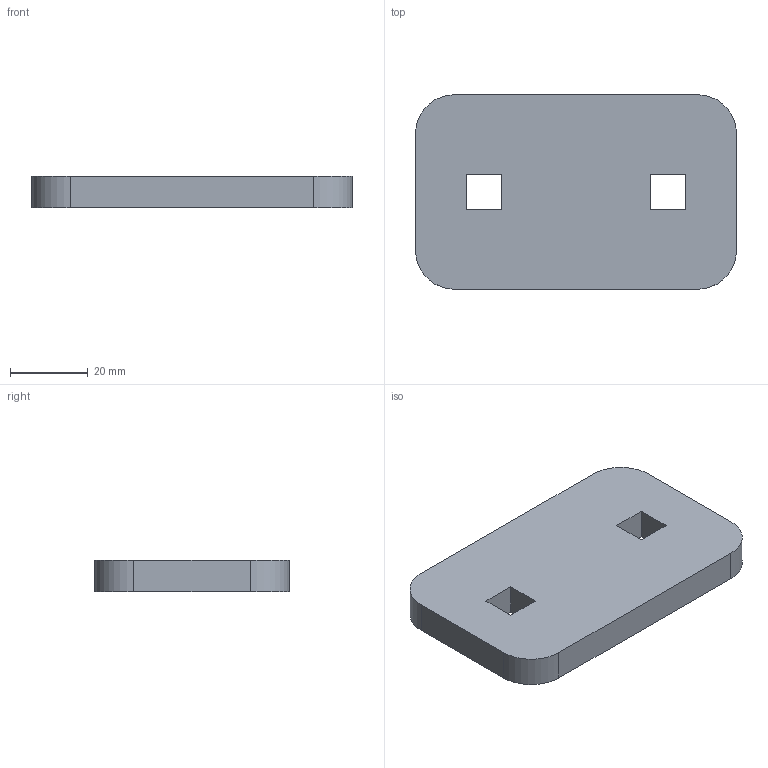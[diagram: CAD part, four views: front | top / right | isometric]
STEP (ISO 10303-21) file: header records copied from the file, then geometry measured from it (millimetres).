
FILE_DESCRIPTION(/* description */ (''),/* implementation_level */ '2;1');
FILE_NAME(/* name */ 'Part_4_ver1.step',/* time_stamp */ '2026-07-24T14:38:04+02:00',/* author */ ('dariu'),/* organization */ (''),/* preprocessor_version */ 'ST-DEVELOPER v20.1',/* originating_system */ 'Autodesk Inventor 2026',/* authorisation */ '');
FILE_SCHEMA (('AUTOMOTIVE_DESIGN { 1 0 10303 214 3 1 1 }'));
Length unit declared in the file: millimetre
Products named in the file (1): Part_4_ver1
Bounding box: 82.5 x 50 x 8 mm (x, y, z)
Volume: 31017.3 mm3; surface area: 10313 mm2
Topology: 1 solids, 1 shells, 18 faces, 48 edges, 32 vertices
Faces by surface type: plane 14, cylinder 4
Entity records: 611 total; most frequent: CARTESIAN_POINT 99, ORIENTED_EDGE 96, DIRECTION 94, EDGE_CURVE 48, LINE 40, VECTOR 40, VERTEX_POINT 32, AXIS2_PLACEMENT_3D 27
